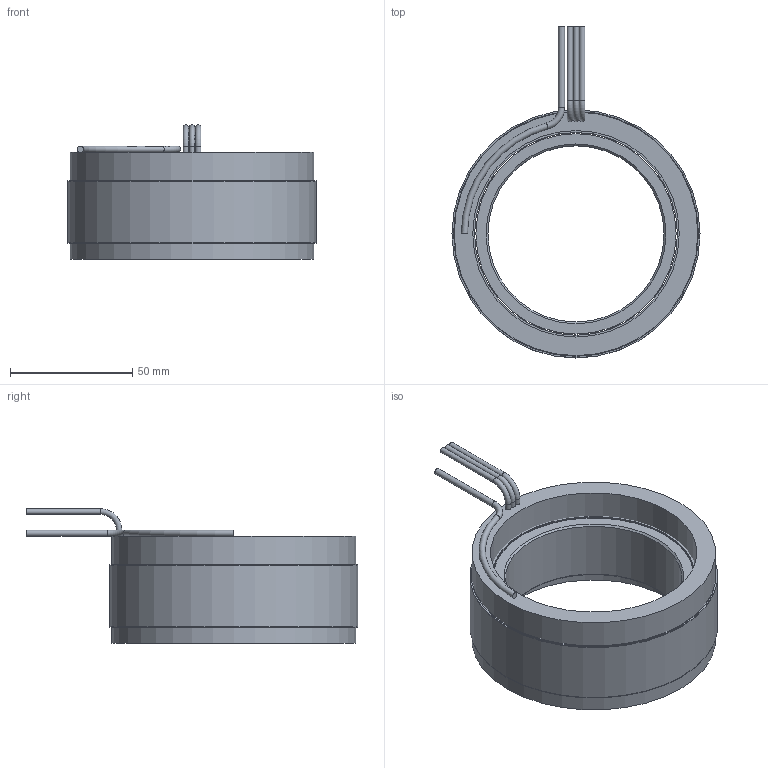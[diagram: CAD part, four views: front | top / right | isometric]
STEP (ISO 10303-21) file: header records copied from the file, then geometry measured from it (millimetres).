
FILE_DESCRIPTION (( 'STEP AP214' ), '1' );
FILE_NAME ('6100395-03.STEP', '2020-12-15T17:34:26', ( '' ), ( '' ), 'SwSTEP 2.0', 'SolidWorks 2016', '' );
FILE_SCHEMA (( 'AUTOMOTIVE_DESIGN' ));
Length unit declared in the file: inch
Products named in the file (10): 4450192-XX_4450192-03; 4400104-00; COMP4500561-XX(COIL)_COMP4500561-03(COIL); 4250383-XX_4250383-03; 4500561-XX_4500561-03; 6100395-03; 4600568-00; 4150181-XX_4150181-03
Assembly tree (10 placements, depth 4):
  6100395-03
    4250383-XX_4250383-03
      4150181-XX_4150181-03
    4500561-XX_4500561-03
      4450192-XX_4450192-03
        4450192-XX_4450192-03
        4400104-00
        4400104-00
        4600568-00  x2
      COMP4500561-XX(COIL)_COMP4500561-03(COIL)
Bounding box: 101.6 x 135.89 x 54.99 mm (x, y, z)
Volume: 197411.8 mm3; surface area: 87142.5 mm2
Topology: 8 solids, 8 shells, 47 faces, 74 edges, 46 vertices
Faces by surface type: cylinder 21, plane 19, torus 5, cone 2
Full cylindrical faces by diameter (mm): 2.286 x6, 2.54 x1, 72.136 x1, 82.042 x1, 83.058 x5, 84.582 x1, 99.822 x1, 100.33 x2, 101.6 x3
Entity records: 1305 total; most frequent: DIRECTION 202, CARTESIAN_POINT 143, AXIS2_PLACEMENT_3D 101, EDGE_LOOP 84, ORIENTED_EDGE 84, FACE_OUTER_BOUND 67, ADVANCED_FACE 43, EDGE_CURVE 42
